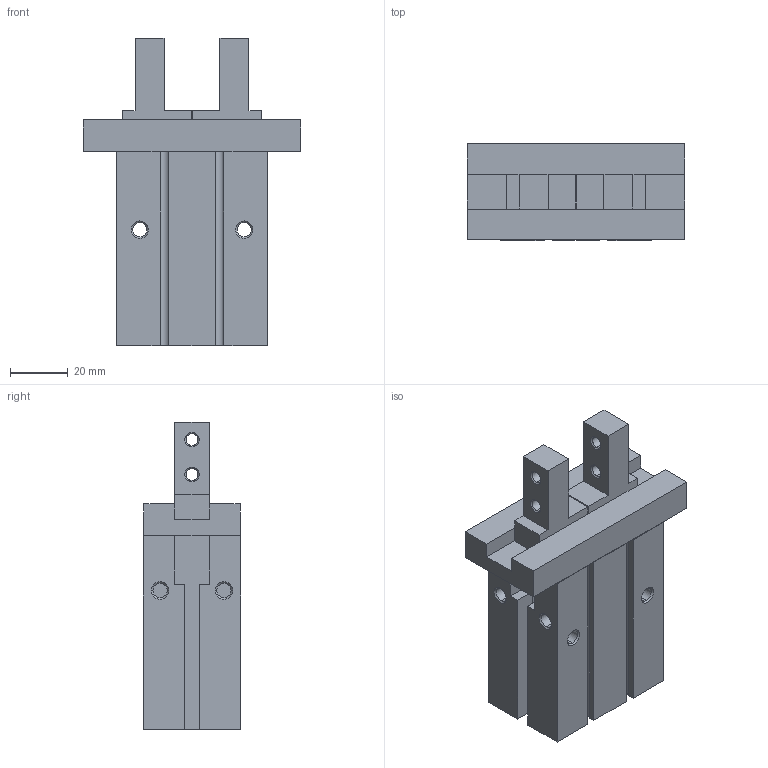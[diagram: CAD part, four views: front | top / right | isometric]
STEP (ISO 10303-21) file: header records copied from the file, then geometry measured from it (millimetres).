
FILE_DESCRIPTION (( 'STEP AP203' ), '1' );
FILE_NAME ('GMHZL2-25D.STEP', '2024-07-24T07:35:02', ( '微软用户' ), ( '微软中国' ), 'SwSTEP 2.0', 'SolidWorks 2018', '' );
FILE_SCHEMA (( 'CONFIG_CONTROL_DESIGN' ));
Length unit declared in the file: millimetre
Products named in the file (3): _MHZL2-25D_Body(0); _MHZL2-25D_Finger(0); GMHZL2-25D
Assembly tree (3 placements, depth 2):
  GMHZL2-25D
    _MHZL2-25D_Body(0)
    _MHZL2-25D_Finger(0)  x2
Bounding box: 75 x 33.6 x 106 mm (x, y, z)
Volume: 129469.4 mm3; surface area: 32773.8 mm2
Topology: 3 solids, 3 shells, 220 faces, 564 edges, 360 vertices
Faces by surface type: plane 124, cylinder 52, cone 44
Entity records: 6101 total; most frequent: CARTESIAN_POINT 1020, DIRECTION 1020, ORIENTED_EDGE 976, EDGE_CURVE 488, AXIS2_PLACEMENT_3D 344, LINE 332, VECTOR 332, VERTEX_POINT 312
